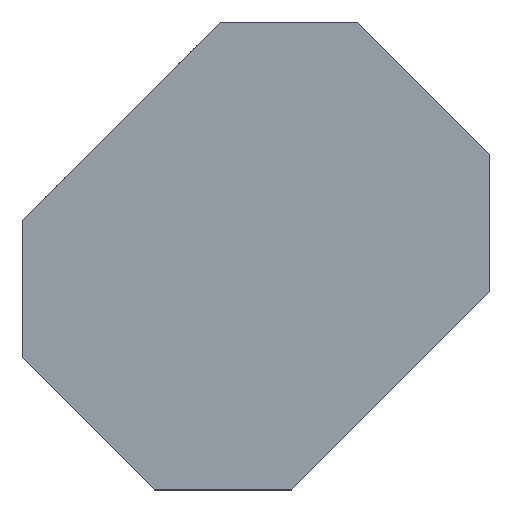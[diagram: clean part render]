
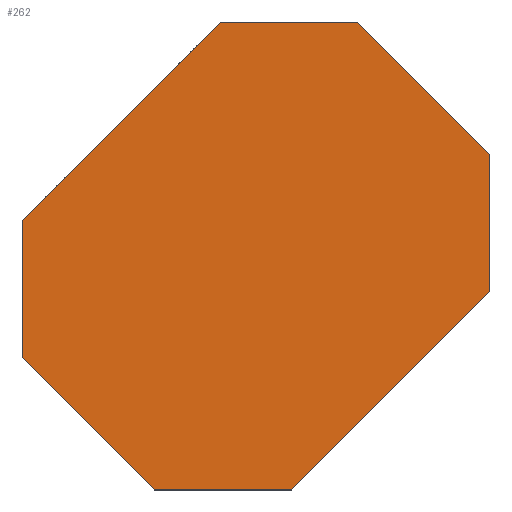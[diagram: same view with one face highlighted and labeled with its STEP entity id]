
A CAD part, top view. The second image highlights one B-rep face of the part: STEP entity #262.
In plain terms, the highlighted planar face has unit normal (0, 0, 1).
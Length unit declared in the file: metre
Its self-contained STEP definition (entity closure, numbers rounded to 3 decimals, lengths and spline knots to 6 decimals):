
#15=LINE('',#376,#45);
#25=LINE('',#402,#55);
#28=LINE('',#409,#58);
#33=LINE('',#420,#63);
#37=LINE('',#427,#67);
#38=LINE('',#429,#68);
#39=LINE('',#430,#69);
#40=LINE('',#431,#70);
#45=VECTOR('',#308,1.);
#55=VECTOR('',#328,1.);
#58=VECTOR('',#333,1.);
#63=VECTOR('',#340,1.);
#67=VECTOR('',#346,1.);
#68=VECTOR('',#349,1.);
#69=VECTOR('',#350,1.);
#70=VECTOR('',#351,1.);
#106=ORIENTED_EDGE('',*,*,#170,.F.);
#107=ORIENTED_EDGE('',*,*,#165,.T.);
#108=ORIENTED_EDGE('',*,*,#171,.T.);
#109=ORIENTED_EDGE('',*,*,#169,.F.);
#110=ORIENTED_EDGE('',*,*,#144,.T.);
#111=ORIENTED_EDGE('',*,*,#157,.F.);
#112=ORIENTED_EDGE('',*,*,#172,.T.);
#113=ORIENTED_EDGE('',*,*,#160,.T.);
#144=EDGE_CURVE('',#179,#178,#15,.T.);
#157=EDGE_CURVE('',#189,#178,#25,.T.);
#160=EDGE_CURVE('',#193,#192,#28,.T.);
#165=EDGE_CURVE('',#195,#197,#33,.T.);
#169=EDGE_CURVE('',#179,#199,#37,.T.);
#170=EDGE_CURVE('',#195,#192,#38,.T.);
#171=EDGE_CURVE('',#197,#199,#39,.T.);
#172=EDGE_CURVE('',#189,#193,#40,.T.);
#178=VERTEX_POINT('',#375);
#179=VERTEX_POINT('',#377);
#189=VERTEX_POINT('',#401);
#192=VERTEX_POINT('',#408);
#193=VERTEX_POINT('',#410);
#195=VERTEX_POINT('',#415);
#197=VERTEX_POINT('',#419);
#199=VERTEX_POINT('',#424);
#214=EDGE_LOOP('',(#106,#107,#108,#109,#110,#111,#112,#113));
#234=FACE_BOUND('',#214,.T.);
#250=PLANE('',#293);
#262=ADVANCED_FACE('',(#234),#250,.T.);
#293=AXIS2_PLACEMENT_3D('',#428,#347,#348);
#308=DIRECTION('',(-0.707,-0.707,0.));
#328=DIRECTION('',(0.,1.,0.));
#333=DIRECTION('',(1.,0.,0.));
#340=DIRECTION('',(0.,1.,0.));
#346=DIRECTION('',(1.,0.,0.));
#347=DIRECTION('',(0.,0.,1.));
#348=DIRECTION('',(1.,0.,0.));
#349=DIRECTION('',(-0.707,-0.707,0.));
#350=DIRECTION('',(-0.707,0.707,0.));
#351=DIRECTION('',(0.707,-0.707,0.));
#375=CARTESIAN_POINT('',(0.,0.028787,0.003));
#376=CARTESIAN_POINT('',(0.010607,0.039393,0.003));
#377=CARTESIAN_POINT('',(0.021213,0.05,0.003));
#401=CARTESIAN_POINT('',(0.,0.014142,0.003));
#402=CARTESIAN_POINT('',(0.,0.025,0.003));
#408=CARTESIAN_POINT('',(0.028787,0.,0.003));
#409=CARTESIAN_POINT('',(0.025,0.,0.003));
#410=CARTESIAN_POINT('',(0.014142,0.,0.003));
#415=CARTESIAN_POINT('',(0.05,0.021213,0.003));
#419=CARTESIAN_POINT('',(0.05,0.035858,0.003));
#420=CARTESIAN_POINT('',(0.05,0.025,0.003));
#424=CARTESIAN_POINT('',(0.035858,0.05,0.003));
#427=CARTESIAN_POINT('',(0.025,0.05,0.003));
#428=CARTESIAN_POINT('',(0.025,0.025,0.003));
#429=CARTESIAN_POINT('',(0.039393,0.010607,0.003));
#430=CARTESIAN_POINT('',(0.042929,0.042929,0.003));
#431=CARTESIAN_POINT('',(0.007071,0.007071,0.003));
